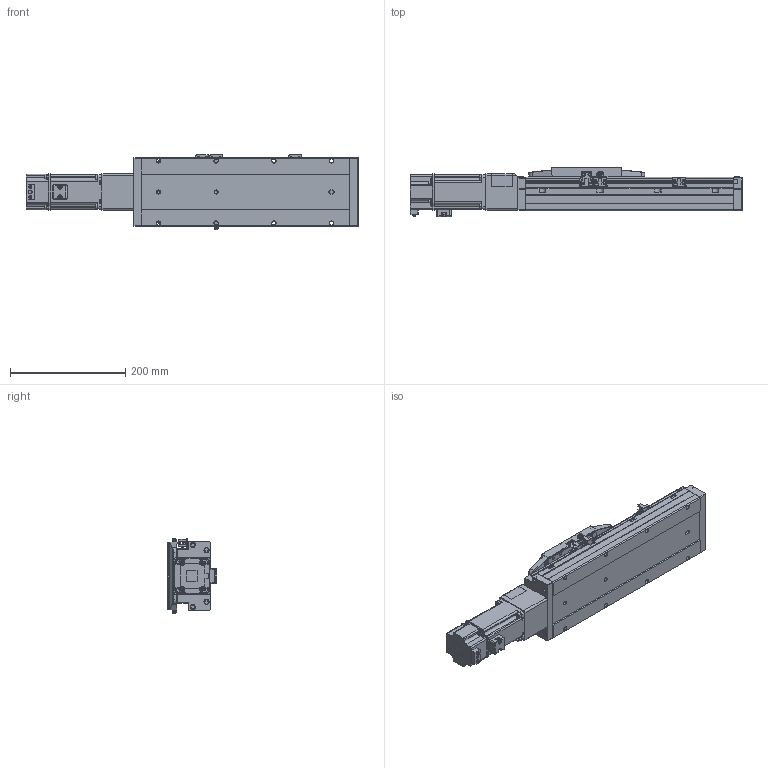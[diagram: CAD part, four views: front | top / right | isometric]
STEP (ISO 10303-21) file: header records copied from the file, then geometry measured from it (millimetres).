
FILE_DESCRIPTION (( 'STEP AP214' ), '1' );
FILE_NAME ('CTH12-L10-S150-BC-C40（简）.STEP', '2023-02-06T05:34:07', ( '' ), ( '' ), 'SwSTEP 2.0', 'SolidWorks 2018', '' );
FILE_SCHEMA (( 'AUTOMOTIVE_DESIGN' ));
Length unit declared in the file: millimetre
Products named in the file (23): CTH12-BC-03_1; 嫖萇羲壽郪磁2; CTH12-BC-06-T40（cth8-bc-06-t40-G）_1; CTH12萇儂釱; 湮賑怢  裔赽-1(CTH12)賑怢; CTH12底座-L361简（150行程）; CTH嫖萇羲壽假蚾啣; CTH12-L10-S150-BC-C40（简）; 内六角圆柱头螺钉M3-2; 蚐郲; CTH12_body_3; CTH12賑怢ㄗ潠ㄘ; PM-Y45; CTH12-BL_body_4; 400W萇儂; 内六角圆柱头螺钉M3; hex nuts, style 1-grades ab gb_GB_FASTENER_NUT_SNAB1 M3-N; 嫖萇羲壽郪磁1333; M5蹟隊; CTH12賑怢郪磁; 内六角圆柱头螺钉M3-1; CTH12; CTH12覜茼え
Assembly tree (43 placements, depth 4):
  CTH12-L10-S150-BC-C40（简）
    CTH12底座-L361简（150行程）
    蚐郲  x2
    CTH12-BL_body_4
    CTH12_body_3
    CTH12賑怢郪磁
      CTH12
        湮賑怢  裔赽-1(CTH12)賑怢
        CTH12賑怢ㄗ潠ㄘ
    CTH12覜茼え
    嫖萇羲壽郪磁2
      CTH嫖萇羲壽假蚾啣
      PM-Y45
      内六角圆柱头螺钉M3-1  x2
      内六角圆柱头螺钉M3-2  x2
      hex nuts, style 1-grades ab gb_GB_FASTENER_NUT_SNAB1 M3-N  x2
    CTH12萇儂釱
      CTH12-BC-03_1
      CTH12-BC-06-T40（cth8-bc-06-t40-G）_1
    嫖萇羲壽郪磁1333  x2
      CTH嫖萇羲壽假蚾啣
      PM-Y45
      内六角圆柱头螺钉M3-2
      内六角圆柱头螺钉M3-1
      hex nuts, style 1-grades ab gb_GB_FASTENER_NUT_SNAB1 M3-N
    内六角圆柱头螺钉M3  x6
    400W萇儂
    M5蹟隊  x4
Bounding box: 575.8 x 86.5 x 131.52 mm (x, y, z)
Volume: 3003504 mm3; surface area: 418308.4 mm2
Topology: 45 solids, 47 shells, 2720 faces, 6724 edges, 4229 vertices
Faces by surface type: plane 1360, cylinder 833, cone 275, bspline 124, torus 124, sphere 4
Entity records: 83344 total; most frequent: CARTESIAN_POINT 28622, ORIENTED_EDGE 10550, DIRECTION 10270, EDGE_CURVE 5275, AXIS2_PLACEMENT_3D 3597, VERTEX_POINT 3333, VECTOR 3076, LINE 3076
